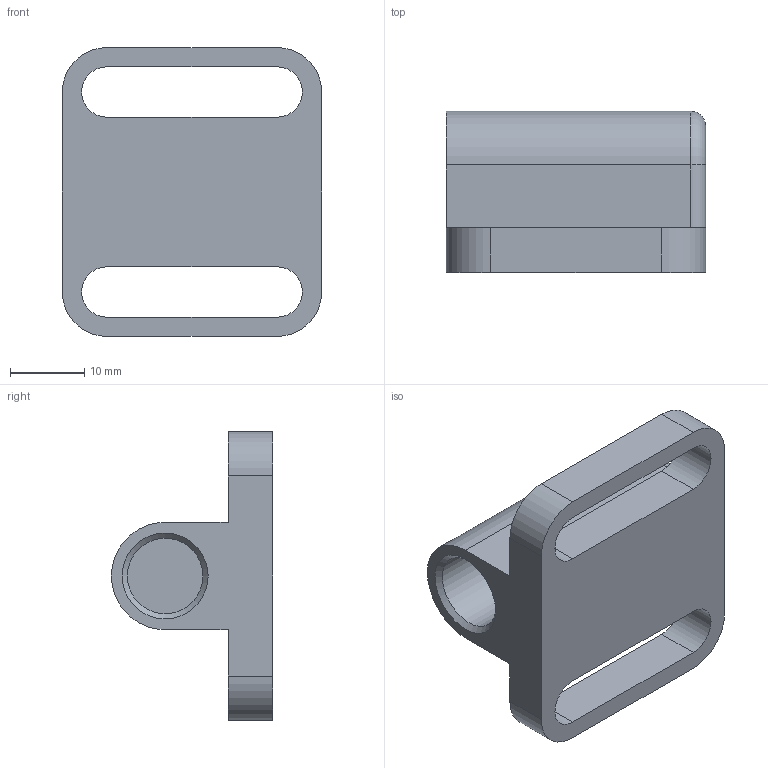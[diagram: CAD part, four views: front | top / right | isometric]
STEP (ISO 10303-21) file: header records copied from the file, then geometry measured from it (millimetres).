
FILE_DESCRIPTION( ( 'STEP AP203' ), '1' );
FILE_NAME( 'C:/Temp/Ganter_Step_05_03_2020/data/3_1/gn_417_1/Stainless Steel-Locator GN 417.1-10-NI-GS.stp', '2020-03-12T09:12:11', ( 'License CC BY-ND 4.0' ), ( 'CADENAS' ), ' ', 'PARTsolutions', ' ' );
FILE_SCHEMA( ( 'CONFIG_CONTROL_DESIGN' ) );
Length unit declared in the file: millimetre
Products named in the file (1): _Stainless Steel-Locator GN 417.1-10-NI-GS
Bounding box: 35 x 21.75 x 39 mm (x, y, z)
Volume: 10239.5 mm3; surface area: 5807.8 mm2
Topology: 1 solids, 1 shells, 28 faces, 72 edges, 47 vertices
Faces by surface type: plane 14, cylinder 12, cone 1, torus 1
Full cylindrical faces by diameter (mm): 10.2 x1
Entity records: 900 total; most frequent: DIRECTION 154, CARTESIAN_POINT 146, ORIENTED_EDGE 140, EDGE_CURVE 70, AXIS2_PLACEMENT_3D 55, VERTEX_POINT 47, LINE 44, VECTOR 44
